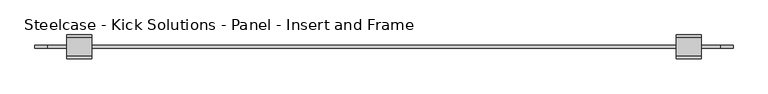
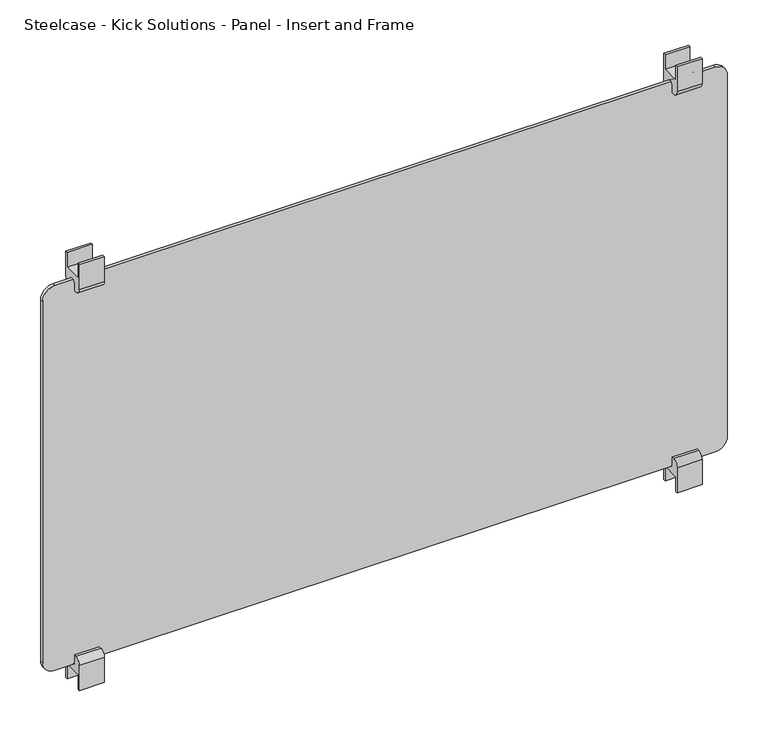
"""IFC4 building model written with IfcOpenShell, lengths in millimetres: furniture geometry, Steelcase - Kick Solutions - Panel - Insert and Frame : Laminate - 42H x 60W."""

from ifc_helpers import new_model, si_unit, point, frame, frame_2d, origin, place, context, project, spatial, polyline, circle_curve, trimmed, segment, composite_curve, outline, extrude, source, transform, mapped, element, save


def steelcase_kick_solutions_panel_insert_and_frame_4f29b8fd(model_context):
    return source(origin(), model_context, "Body", "SweptSolid", [
        extrude(outline(composite_curve([segment(polyline([(5.3821989, 1041.4), (10.144699, 1041.4), (10.144699, 986.713221)]), True, "CONTINUOUS"), segment(trimmed(circle_curve(frame_2d((-1.6831687, 986.713221)), 11.8278677), [point((10.144699, 986.713221))], [point((-1.6831687, 974.8853533))], False, "CARTESIAN"), True, "CONTINUOUS"), segment(polyline([(-1.6831687, 974.8853533), (-7.3178012, 974.8853533), (-7.3178012, 990.2857521)]), True, "CONTINUOUS"), segment(trimmed(circle_curve(frame_2d((-13.667801, 990.2857521)), 6.3499998), [point((-7.3178012, 990.2857521))], [point((-20.0178007, 990.2857521))], True, "CARTESIAN"), True, "CONTINUOUS"), segment(polyline([(-20.0178007, 990.2857521), (-20.0178007, 974.8853527), (-25.2074988, 974.8853527)]), True, "CONTINUOUS"), segment(trimmed(circle_curve(frame_2d((-25.2074988, 987.1581549)), 12.2728022), [point((-25.2074988, 974.8853527))], [point((-37.480301, 987.1581549))], False, "CARTESIAN"), True, "CONTINUOUS"), segment(polyline([(-37.480301, 987.1581549), (-37.480301, 1041.4), (-32.7177988, 1041.4), (-32.7177988, 1009.6499758), (5.3821989, 1009.6499758), (5.3821989, 1041.4)]), True, "CONTINUOUS")], self_intersect=False)), frame((1347.1148583, 0.0, 0.0), z_axis=(1.0, 0.0, 0.0), x_axis=(0.0, 1.0, 0.0)), (0.0, 0.0, 1.0), 50.8),
        extrude(outline(composite_curve([segment(polyline([(5.3821989, 120.6499576), (5.3821989, 152.3999815), (-32.7177988, 152.3999815), (-32.7177988, 120.6499576), (-37.480301, 120.6499576), (-37.480301, 174.8918024)]), True, "CONTINUOUS"), segment(trimmed(circle_curve(frame_2d((-25.2074988, 174.8918024)), 12.2728022), [point((-37.480301, 174.8918024))], [point((-25.2074988, 187.1646046))], False, "CARTESIAN"), True, "CONTINUOUS"), segment(polyline([(-25.2074988, 187.1646046), (-20.0178007, 187.1646046), (-20.0178007, 171.7642058)]), True, "CONTINUOUS"), segment(trimmed(circle_curve(frame_2d((-13.667801, 171.7642058)), 6.3499998), [point((-20.0178007, 171.7642058))], [point((-7.3178012, 171.7642058))], True, "CARTESIAN"), True, "CONTINUOUS"), segment(polyline([(-7.3178012, 171.7642058), (-7.3178012, 187.1646046), (-1.6831687, 187.1646046)]), True, "CONTINUOUS"), segment(trimmed(circle_curve(frame_2d((-1.6831687, 175.3367369)), 11.8278677), [point((-1.6831687, 187.1646046))], [point((10.144699, 175.3367369))], False, "CARTESIAN"), True, "CONTINUOUS"), segment(polyline([(10.144699, 175.3367369), (10.144699, 120.6499576), (5.3821989, 120.6499576)]), True, "CONTINUOUS")], self_intersect=False)), frame((1347.1148583, 0.0, 0.0), z_axis=(1.0, 0.0, 0.0), x_axis=(0.0, 1.0, 0.0)), (0.0, 0.0, 1.0), 50.8),
        extrude(outline(composite_curve([segment(polyline([(5.3821989, 1041.4), (10.144699, 1041.4), (10.144699, 986.7132204)]), True, "CONTINUOUS"), segment(trimmed(circle_curve(frame_2d((-1.6831684, 986.7132204)), 11.8278674), [point((10.144699, 986.7132204))], [point((-1.6831684, 974.885353))], False, "CARTESIAN"), True, "CONTINUOUS"), segment(polyline([(-1.6831684, 974.885353), (-7.3178009, 974.885353), (-7.3178009, 990.2857521)]), True, "CONTINUOUS"), segment(trimmed(circle_curve(frame_2d((-13.667801, 990.2857521)), 6.3500001), [point((-7.3178009, 990.2857521))], [point((-20.017801, 990.2857521))], True, "CARTESIAN"), True, "CONTINUOUS"), segment(polyline([(-20.017801, 990.2857521), (-20.017801, 974.885353), (-25.2074991, 974.885353)]), True, "CONTINUOUS"), segment(trimmed(circle_curve(frame_2d((-25.2074991, 987.1581549)), 12.2728019), [point((-25.2074991, 974.885353))], [point((-37.480301, 987.1581549))], False, "CARTESIAN"), True, "CONTINUOUS"), segment(polyline([(-37.480301, 987.1581549), (-37.480301, 1041.4), (-32.7177988, 1041.4), (-32.7177988, 1009.6499758), (5.3821989, 1009.6499758), (5.3821989, 1041.4)]), True, "CONTINUOUS")], self_intersect=False)), frame((126.0851417, 0.0, 0.0), z_axis=(1.0, 0.0, 0.0), x_axis=(0.0, 1.0, 0.0)), (0.0, 0.0, 1.0), 50.8),
        extrude(outline(composite_curve([segment(polyline([(5.3821989, 120.6499576), (5.3821989, 152.3999818), (-32.7177988, 152.3999818), (-32.7177988, 120.6499576), (-37.480301, 120.6499576), (-37.480301, 174.8918027)]), True, "CONTINUOUS"), segment(trimmed(circle_curve(frame_2d((-25.2074991, 174.8918027)), 12.2728019), [point((-37.480301, 174.8918027))], [point((-25.2074991, 187.1646046))], False, "CARTESIAN"), True, "CONTINUOUS"), segment(polyline([(-25.2074991, 187.1646046), (-20.017801, 187.1646046), (-20.017801, 171.7642055)]), True, "CONTINUOUS"), segment(trimmed(circle_curve(frame_2d((-13.667801, 171.7642055)), 6.3500001), [point((-20.017801, 171.7642055))], [point((-7.3178009, 171.7642055))], True, "CARTESIAN"), True, "CONTINUOUS"), segment(polyline([(-7.3178009, 171.7642055), (-7.3178009, 187.1646041), (-1.6831684, 187.1646041)]), True, "CONTINUOUS"), segment(trimmed(circle_curve(frame_2d((-1.6831684, 175.3367366)), 11.8278674), [point((-1.6831684, 187.1646041))], [point((10.144699, 175.3367366))], False, "CARTESIAN"), True, "CONTINUOUS"), segment(polyline([(10.144699, 175.3367366), (10.144699, 120.6499576), (5.3821989, 120.6499576)]), True, "CONTINUOUS")], self_intersect=False)), frame((126.0851417, 0.0, 0.0), z_axis=(1.0, 0.0, 0.0), x_axis=(0.0, 1.0, 0.0)), (0.0, 0.0, 1.0), 50.8),
        extrude(outline(composite_curve([segment(polyline([(996.9499516, 1436.0148583), (996.9499516, 87.9851417)]), True, "CONTINUOUS"), segment(trimmed(circle_curve(frame_2d((971.5499516, 87.9851417)), 25.4), [point((996.9499516, 87.9851417))], [point((971.5499516, 62.5851417))], False, "CARTESIAN"), True, "CONTINUOUS"), segment(polyline([(971.5499516, 62.5851417), (190.5000061, 62.5851417)]), True, "CONTINUOUS"), segment(trimmed(circle_curve(frame_2d((190.5000061, 87.9851417)), 25.4), [point((190.5000061, 62.5851417))], [point((165.1000061, 87.9851417))], False, "CARTESIAN"), True, "CONTINUOUS"), segment(polyline([(165.1000061, 87.9851417), (165.1000061, 1436.0148583)]), True, "CONTINUOUS"), segment(trimmed(circle_curve(frame_2d((190.5000061, 1436.0148583)), 25.4), [point((165.1000061, 1436.0148583))], [point((190.5000061, 1461.4148583))], False, "CARTESIAN"), True, "CONTINUOUS"), segment(polyline([(190.5000061, 1461.4148583), (971.5499516, 1461.4148583)]), True, "CONTINUOUS"), segment(trimmed(circle_curve(frame_2d((971.5499516, 1436.0148583)), 25.4), [point((971.5499516, 1461.4148583))], [point((996.9499516, 1436.0148583))], False, "CARTESIAN"), True, "CONTINUOUS")], self_intersect=False)), frame((0.0, -16.8428004, 0.0), z_axis=(0.0, 1.0, 0.0), x_axis=(0.0, 0.0, 1.0)), (0.0, 0.0, 1.0), 6.3499985),
    ])


if __name__ == "__main__":
    model = new_model("IFC4")
    model_context = context("Model", 3, world=origin())
    ifc_project = project(units=[si_unit("LENGTHUNIT", "METRE", prefix="MILLI")], contexts=[model_context])
    site = spatial("IfcSite", under=ifc_project)
    building = spatial("IfcBuilding", under=site)
    placement = place(None, origin())
    steelcase_kick_solutions_panel_insert_and_frame_shape = steelcase_kick_solutions_panel_insert_and_frame_4f29b8fd(model_context)
    element("IfcFurniture", 1, ObjectType="Steelcase - Kick Solutions - Panel - Insert and Frame : Laminate - 42H x 60W", at=placement, inside=building, context=model_context, shape_type="MappedRepresentation", body=[
        mapped(steelcase_kick_solutions_panel_insert_and_frame_shape, transform((0.0, 0.0, 0.0), x_axis=(1.0, 0.0, 0.0), y_axis=(0.0, 1.0, 0.0), z_axis=(0.0, 0.0, 1.0))),
    ])
    save(model, "model.ifc")
